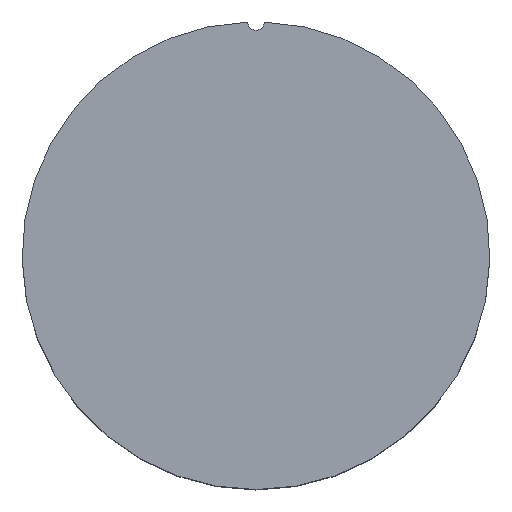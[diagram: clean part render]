
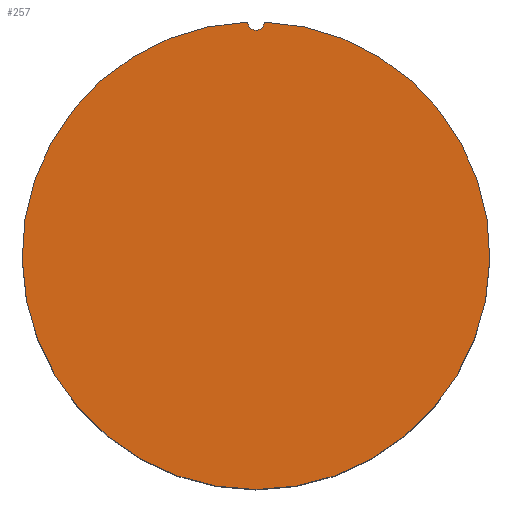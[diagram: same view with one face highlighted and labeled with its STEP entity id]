
A CAD part, top view. The second image highlights one B-rep face of the part: STEP entity #257.
In plain terms, the highlighted planar face has unit normal (0, 0, 1).
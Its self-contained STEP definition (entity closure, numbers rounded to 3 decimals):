
#29=PLANE('',#302);
#68=FACE_OUTER_BOUND('',#108,.T.);
#108=EDGE_LOOP('',(#220,#221));
#116=CIRCLE('',#274,1.25);
#131=CIRCLE('',#303,34.95);
#138=VERTEX_POINT('',#417);
#140=VERTEX_POINT('',#420);
#161=EDGE_CURVE('',#140,#138,#116,.T.);
#177=EDGE_CURVE('',#138,#140,#131,.T.);
#220=ORIENTED_EDGE('',*,*,#161,.T.);
#221=ORIENTED_EDGE('',*,*,#177,.T.);
#257=ADVANCED_FACE('',(#68),#29,.T.);
#274=AXIS2_PLACEMENT_3D('',#421,#334,#335);
#302=AXIS2_PLACEMENT_3D('',#463,#391,#392);
#303=AXIS2_PLACEMENT_3D('',#464,#393,#394);
#334=DIRECTION('center_axis',(0.,0.,-1.));
#335=DIRECTION('ref_axis',(1.,0.,0.));
#391=DIRECTION('center_axis',(0.,0.,1.));
#392=DIRECTION('ref_axis',(1.,0.,0.));
#393=DIRECTION('center_axis',(0.,0.,1.));
#394=DIRECTION('ref_axis',(-1.,0.,0.));
#417=CARTESIAN_POINT('',(-1.25,34.928,41.));
#420=CARTESIAN_POINT('',(1.25,34.928,41.));
#421=CARTESIAN_POINT('Origin',(0.,34.95,41.));
#463=CARTESIAN_POINT('Origin',(0.,0.,
41.));
#464=CARTESIAN_POINT('Origin',(0.,0.,41.));
